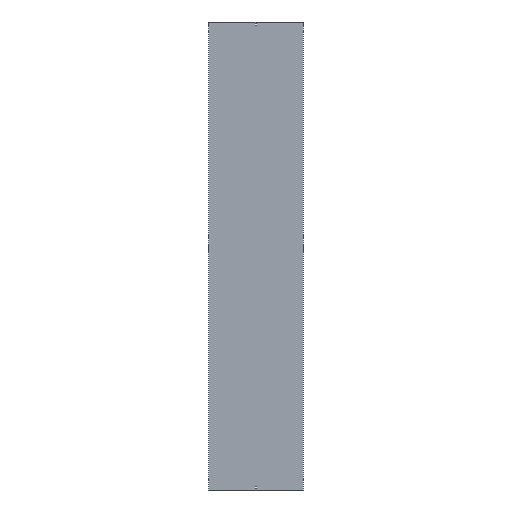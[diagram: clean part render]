
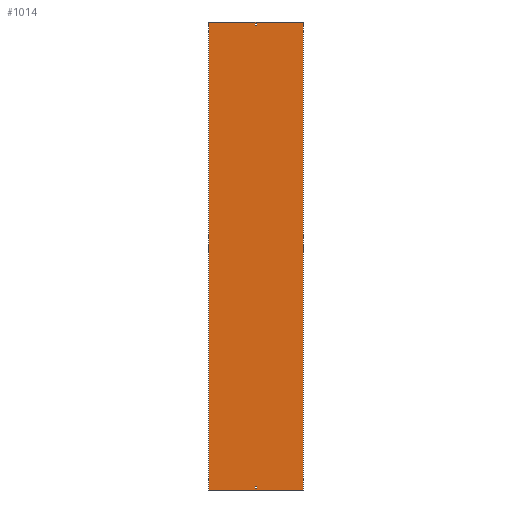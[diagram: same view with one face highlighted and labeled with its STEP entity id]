
A CAD part, front view. The second image highlights one B-rep face of the part: STEP entity #1014.
In plain terms, the highlighted planar face has unit normal (0, -1, 0).
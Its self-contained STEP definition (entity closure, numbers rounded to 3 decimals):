
#10 = CARTESIAN_POINT ( 'NONE',  ( -3.25, 0., 1479. ) ) ;
#13 = CARTESIAN_POINT ( 'NONE',  ( 3.25, 0., -1479. ) ) ;
#44 = CARTESIAN_POINT ( 'NONE',  ( -3.25, 0., 1488. ) ) ;
#54 = EDGE_LOOP ( 'NONE', ( #1259, #1463, #931, #896 ) ) ;
#71 = VERTEX_POINT ( 'NONE', #509 ) ;
#77 = DIRECTION ( 'NONE',  ( -1., 0., 0. ) ) ;
#81 = VERTEX_POINT ( 'NONE', #1414 ) ;
#86 = CARTESIAN_POINT ( 'NONE',  ( -3.25, 0., -1479. ) ) ;
#102 = EDGE_CURVE ( 'NONE', #1143, #1318, #419, .T. ) ;
#170 = LINE ( 'NONE', #796, #894 ) ;
#176 = CARTESIAN_POINT ( 'NONE',  ( 3.25, 0., 1479. ) ) ;
#189 = FACE_BOUND ( 'NONE', #54, .T. ) ;
#190 = ORIENTED_EDGE ( 'NONE', *, *, #597, .F. ) ;
#235 = LINE ( 'NONE', #614, #308 ) ;
#257 = VERTEX_POINT ( 'NONE', #543 ) ;
#291 = DIRECTION ( 'NONE',  ( 0., 0., -1. ) ) ;
#298 = CARTESIAN_POINT ( 'NONE',  ( -302., 0., 1500. ) ) ;
#305 = VECTOR ( 'NONE', #637, 1000. ) ;
#308 = VECTOR ( 'NONE', #1389, 1000. ) ;
#349 = VECTOR ( 'NONE', #369, 1000. ) ;
#369 = DIRECTION ( 'NONE',  ( -1., 0., 0. ) ) ;
#419 = LINE ( 'NONE', #769, #305 ) ;
#430 = CARTESIAN_POINT ( 'NONE',  ( -302., 0., 1500. ) ) ;
#450 = EDGE_LOOP ( 'NONE', ( #692, #190, #459, #1612 ) ) ;
#459 = ORIENTED_EDGE ( 'NONE', *, *, #1469, .F. ) ;
#490 = EDGE_CURVE ( 'NONE', #1029, #690, #640, .T. ) ;
#493 = LINE ( 'NONE', #1024, #1625 ) ;
#509 = CARTESIAN_POINT ( 'NONE',  ( -3.25, 0., 1488. ) ) ;
#515 = DIRECTION ( 'NONE',  ( 0., 0., -1. ) ) ;
#543 = CARTESIAN_POINT ( 'NONE',  ( 3.25, 0., 1488. ) ) ;
#547 = CARTESIAN_POINT ( 'NONE',  ( -3.25, 0., 1479. ) ) ;
#548 = VERTEX_POINT ( 'NONE', #575 ) ;
#554 = CARTESIAN_POINT ( 'NONE',  ( 302., 0., 1500. ) ) ;
#556 = EDGE_CURVE ( 'NONE', #71, #1029, #1231, .T. ) ;
#564 = DIRECTION ( 'NONE',  ( 0., 1., 0. ) ) ;
#575 = CARTESIAN_POINT ( 'NONE',  ( -302., 0., -1500. ) ) ;
#583 = DIRECTION ( 'NONE',  ( 0., 0., -1. ) ) ;
#592 = CARTESIAN_POINT ( 'NONE',  ( -3.25, 0., 1488. ) ) ;
#597 = EDGE_CURVE ( 'NONE', #1002, #736, #1591, .T. ) ;
#605 = EDGE_CURVE ( 'NONE', #1299, #548, #1071, .T. ) ;
#606 = CARTESIAN_POINT ( 'NONE',  ( -3.25, 0., -1488. ) ) ;
#608 = CARTESIAN_POINT ( 'NONE',  ( 302., 0., -1500. ) ) ;
#614 = CARTESIAN_POINT ( 'NONE',  ( 3.25, 0., 1488. ) ) ;
#621 = CARTESIAN_POINT ( 'NONE',  ( -302., 0., 1500. ) ) ;
#637 = DIRECTION ( 'NONE',  ( 1., 0., 0. ) ) ;
#640 = LINE ( 'NONE', #10, #1534 ) ;
#679 = CARTESIAN_POINT ( 'NONE',  ( 302., 0., 1500. ) ) ;
#690 = VERTEX_POINT ( 'NONE', #176 ) ;
#692 = ORIENTED_EDGE ( 'NONE', *, *, #1162, .T. ) ;
#701 = DIRECTION ( 'NONE',  ( 1., 0., 0. ) ) ;
#711 = VECTOR ( 'NONE', #77, 1000. ) ;
#725 = LINE ( 'NONE', #592, #349 ) ;
#736 = VERTEX_POINT ( 'NONE', #608 ) ;
#769 = CARTESIAN_POINT ( 'NONE',  ( -3.25, 0., -1479. ) ) ;
#796 = CARTESIAN_POINT ( 'NONE',  ( -302., 0., 1500. ) ) ;
#805 = VECTOR ( 'NONE', #291, 1000. ) ;
#813 = EDGE_CURVE ( 'NONE', #257, #71, #725, .T. ) ;
#819 = ORIENTED_EDGE ( 'NONE', *, *, #1149, .F. ) ;
#838 = FACE_OUTER_BOUND ( 'NONE', #450, .T. ) ;
#841 = EDGE_LOOP ( 'NONE', ( #964, #982, #1390, #819 ) ) ;
#880 = LINE ( 'NONE', #606, #711 ) ;
#894 = VECTOR ( 'NONE', #701, 1000. ) ;
#896 = ORIENTED_EDGE ( 'NONE', *, *, #1219, .T. ) ;
#931 = ORIENTED_EDGE ( 'NONE', *, *, #1330, .T. ) ;
#964 = ORIENTED_EDGE ( 'NONE', *, *, #490, .F. ) ;
#982 = ORIENTED_EDGE ( 'NONE', *, *, #556, .F. ) ;
#1002 = VERTEX_POINT ( 'NONE', #554 ) ;
#1014 = ADVANCED_FACE ( 'NONE', ( #838, #1353, #189 ), #1483, .F. ) ;
#1024 = CARTESIAN_POINT ( 'NONE',  ( 3.25, 0., -1488. ) ) ;
#1029 = VERTEX_POINT ( 'NONE', #547 ) ;
#1071 = LINE ( 'NONE', #430, #805 ) ;
#1102 = CARTESIAN_POINT ( 'NONE',  ( -3.25, 0., -1488. ) ) ;
#1108 = VERTEX_POINT ( 'NONE', #1507 ) ;
#1138 = LINE ( 'NONE', #1518, #1305 ) ;
#1143 = VERTEX_POINT ( 'NONE', #86 ) ;
#1149 = EDGE_CURVE ( 'NONE', #690, #257, #235, .T. ) ;
#1162 = EDGE_CURVE ( 'NONE', #548, #736, #1138, .T. ) ;
#1219 = EDGE_CURVE ( 'NONE', #81, #1108, #880, .T. ) ;
#1231 = LINE ( 'NONE', #44, #1381 ) ;
#1245 = VECTOR ( 'NONE', #1358, 1000. ) ;
#1259 = ORIENTED_EDGE ( 'NONE', *, *, #1590, .T. ) ;
#1299 = VERTEX_POINT ( 'NONE', #621 ) ;
#1305 = VECTOR ( 'NONE', #1402, 1000. ) ;
#1318 = VERTEX_POINT ( 'NONE', #13 ) ;
#1330 = EDGE_CURVE ( 'NONE', #1318, #81, #493, .T. ) ;
#1353 = FACE_BOUND ( 'NONE', #841, .T. ) ;
#1358 = DIRECTION ( 'NONE',  ( 0., 0., 1. ) ) ;
#1381 = VECTOR ( 'NONE', #1454, 1000. ) ;
#1389 = DIRECTION ( 'NONE',  ( 0., 0., 1. ) ) ;
#1390 = ORIENTED_EDGE ( 'NONE', *, *, #813, .F. ) ;
#1402 = DIRECTION ( 'NONE',  ( 1., 0., 0. ) ) ;
#1412 = AXIS2_PLACEMENT_3D ( 'NONE', #298, #564, #1611 ) ;
#1414 = CARTESIAN_POINT ( 'NONE',  ( 3.25, 0., -1488. ) ) ;
#1428 = VECTOR ( 'NONE', #583, 1000. ) ;
#1454 = DIRECTION ( 'NONE',  ( 0., 0., -1. ) ) ;
#1463 = ORIENTED_EDGE ( 'NONE', *, *, #102, .T. ) ;
#1469 = EDGE_CURVE ( 'NONE', #1299, #1002, #170, .T. ) ;
#1483 = PLANE ( 'NONE',  #1412 ) ;
#1506 = LINE ( 'NONE', #1102, #1245 ) ;
#1507 = CARTESIAN_POINT ( 'NONE',  ( -3.25, 0., -1488. ) ) ;
#1518 = CARTESIAN_POINT ( 'NONE',  ( -302., 0., -1500. ) ) ;
#1534 = VECTOR ( 'NONE', #1583, 1000. ) ;
#1583 = DIRECTION ( 'NONE',  ( 1., 0., 0. ) ) ;
#1590 = EDGE_CURVE ( 'NONE', #1108, #1143, #1506, .T. ) ;
#1591 = LINE ( 'NONE', #679, #1428 ) ;
#1611 = DIRECTION ( 'NONE',  ( -1., 0., 0. ) ) ;
#1612 = ORIENTED_EDGE ( 'NONE', *, *, #605, .T. ) ;
#1625 = VECTOR ( 'NONE', #515, 1000. ) ;
